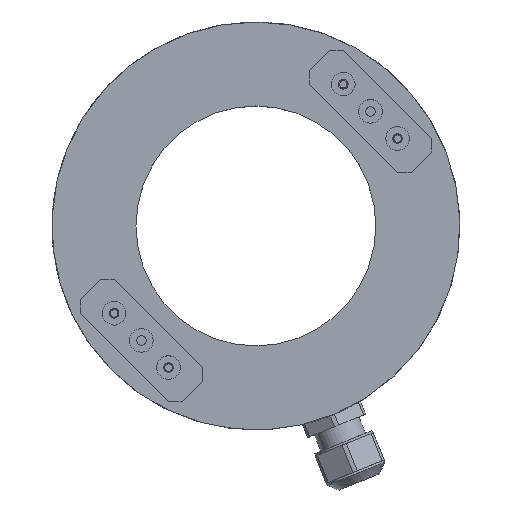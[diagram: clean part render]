
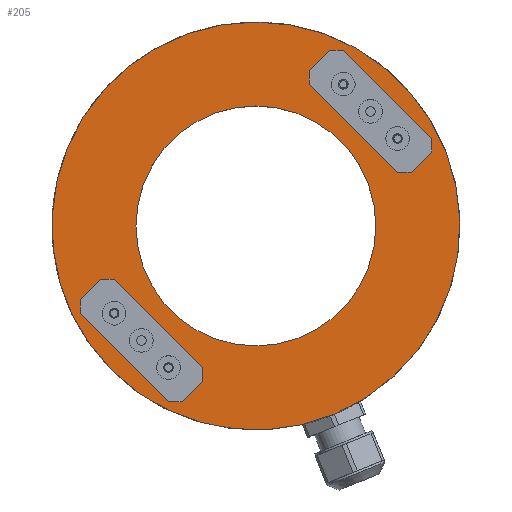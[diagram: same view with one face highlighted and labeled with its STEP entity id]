
A CAD part, top view. The second image highlights one B-rep face of the part: STEP entity #205.
In plain terms, the highlighted planar face has unit normal (0, 0, 1).
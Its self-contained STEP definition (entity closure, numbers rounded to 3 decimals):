
#205 = ADVANCED_FACE( '', ( #521, #522, #523, #524 ), #525, .F. );
#521 = FACE_BOUND( '', #1004, .T. );
#522 = FACE_OUTER_BOUND( '', #1005, .T. );
#523 = FACE_BOUND( '', #1006, .T. );
#524 = FACE_BOUND( '', #1007, .T. );
#525 = PLANE( '', #1008 );
#1004 = EDGE_LOOP( '', ( #1592 ) );
#1005 = EDGE_LOOP( '', ( #1593 ) );
#1006 = EDGE_LOOP( '', ( #1594, #1595, #1596, #1597, #1598, #1599, #1600, #1601 ) );
#1007 = EDGE_LOOP( '', ( #1602, #1603, #1604, #1605, #1606, #1607, #1608, #1609 ) );
#1008 = AXIS2_PLACEMENT_3D( '', #1610, #1611, #1612 );
#1592 = ORIENTED_EDGE( '', *, *, #2511, .F. );
#1593 = ORIENTED_EDGE( '', *, *, #2434, .T. );
#1594 = ORIENTED_EDGE( '', *, *, #2512, .F. );
#1595 = ORIENTED_EDGE( '', *, *, #2513, .T. );
#1596 = ORIENTED_EDGE( '', *, *, #2501, .F. );
#1597 = ORIENTED_EDGE( '', *, *, #2472, .T. );
#1598 = ORIENTED_EDGE( '', *, *, #2514, .F. );
#1599 = ORIENTED_EDGE( '', *, *, #2515, .T. );
#1600 = ORIENTED_EDGE( '', *, *, #2516, .F. );
#1601 = ORIENTED_EDGE( '', *, *, #2517, .T. );
#1602 = ORIENTED_EDGE( '', *, *, #2485, .F. );
#1603 = ORIENTED_EDGE( '', *, *, #2518, .F. );
#1604 = ORIENTED_EDGE( '', *, *, #2519, .F. );
#1605 = ORIENTED_EDGE( '', *, *, #2520, .F. );
#1606 = ORIENTED_EDGE( '', *, *, #2521, .F. );
#1607 = ORIENTED_EDGE( '', *, *, #2522, .T. );
#1608 = ORIENTED_EDGE( '', *, *, #2523, .F. );
#1609 = ORIENTED_EDGE( '', *, *, #2524, .T. );
#1610 = CARTESIAN_POINT( '', ( 0., -40., 9. ) );
#1611 = DIRECTION( '', ( 0., 0., -1. ) );
#1612 = DIRECTION( '', ( -1., 0., 0. ) );
#2434 = EDGE_CURVE( '', #2836, #2836, #2837, .T. );
#2472 = EDGE_CURVE( '', #2902, #2899, #2903, .T. );
#2485 = EDGE_CURVE( '', #2920, #2922, #2923, .T. );
#2501 = EDGE_CURVE( '', #2902, #2948, #2949, .T. );
#2511 = EDGE_CURVE( '', #2964, #2964, #2965, .T. );
#2512 = EDGE_CURVE( '', #2966, #2967, #2968, .T. );
#2513 = EDGE_CURVE( '', #2966, #2948, #2969, .T. );
#2514 = EDGE_CURVE( '', #2970, #2899, #2971, .T. );
#2515 = EDGE_CURVE( '', #2970, #2972, #2973, .T. );
#2516 = EDGE_CURVE( '', #2974, #2972, #2975, .T. );
#2517 = EDGE_CURVE( '', #2974, #2967, #2976, .T. );
#2518 = EDGE_CURVE( '', #2977, #2920, #2978, .T. );
#2519 = EDGE_CURVE( '', #2979, #2977, #2980, .T. );
#2520 = EDGE_CURVE( '', #2981, #2979, #2982, .T. );
#2521 = EDGE_CURVE( '', #2983, #2981, #2984, .T. );
#2522 = EDGE_CURVE( '', #2983, #2985, #2986, .T. );
#2523 = EDGE_CURVE( '', #2987, #2985, #2988, .T. );
#2524 = EDGE_CURVE( '', #2987, #2922, #2989, .T. );
#2836 = VERTEX_POINT( '', #3412 );
#2837 = CIRCLE( '', #3413, 42.5 );
#2899 = VERTEX_POINT( '', #3509 );
#2902 = VERTEX_POINT( '', #3513 );
#2903 = LINE( '', #3514, #3515 );
#2920 = VERTEX_POINT( '', #3537 );
#2922 = VERTEX_POINT( '', #3540 );
#2923 = LINE( '', #3541, #3542 );
#2948 = VERTEX_POINT( '', #3573 );
#2949 = LINE( '', #3574, #3575 );
#2964 = VERTEX_POINT( '', #3592 );
#2965 = CIRCLE( '', #3593, 25. );
#2966 = VERTEX_POINT( '', #3594 );
#2967 = VERTEX_POINT( '', #3595 );
#2968 = LINE( '', #3596, #3597 );
#2969 = LINE( '', #3598, #3599 );
#2970 = VERTEX_POINT( '', #3600 );
#2971 = LINE( '', #3601, #3602 );
#2972 = VERTEX_POINT( '', #3603 );
#2973 = LINE( '', #3604, #3605 );
#2974 = VERTEX_POINT( '', #3606 );
#2975 = LINE( '', #3607, #3608 );
#2976 = LINE( '', #3609, #3610 );
#2977 = VERTEX_POINT( '', #3611 );
#2978 = LINE( '', #3612, #3613 );
#2979 = VERTEX_POINT( '', #3614 );
#2980 = LINE( '', #3615, #3616 );
#2981 = VERTEX_POINT( '', #3617 );
#2982 = LINE( '', #3618, #3619 );
#2983 = VERTEX_POINT( '', #3620 );
#2984 = LINE( '', #3621, #3622 );
#2985 = VERTEX_POINT( '', #3623 );
#2986 = LINE( '', #3624, #3625 );
#2987 = VERTEX_POINT( '', #3626 );
#2988 = LINE( '', #3627, #3628 );
#2989 = LINE( '', #3629, #3630 );
#3412 = CARTESIAN_POINT( '', ( 0., 42.5, 9. ) );
#3413 = AXIS2_PLACEMENT_3D( '', #4115, #4116, #4117 );
#3509 = CARTESIAN_POINT( '', ( -11.137, -32.35, 9. ) );
#3513 = CARTESIAN_POINT( '', ( -11.137, -29.522, 9. ) );
#3514 = CARTESIAN_POINT( '', ( -11.137, -29.522, 9. ) );
#3515 = VECTOR( '', #4166, 1000. );
#3537 = CARTESIAN_POINT( '', ( 11.137, 29.522, 9. ) );
#3540 = CARTESIAN_POINT( '', ( 29.522, 11.137, 9. ) );
#3541 = CARTESIAN_POINT( '', ( 9.723, 30.936, 9. ) );
#3542 = VECTOR( '', #4182, 1000. );
#3573 = CARTESIAN_POINT( '', ( -29.522, -11.137, 9. ) );
#3574 = CARTESIAN_POINT( '', ( -9.723, -30.936, 9. ) );
#3575 = VECTOR( '', #4204, 1000. );
#3592 = CARTESIAN_POINT( '', ( 0., 25., 9. ) );
#3593 = AXIS2_PLACEMENT_3D( '', #4219, #4220, #4221 );
#3594 = CARTESIAN_POINT( '', ( -32.35, -11.137, 9. ) );
#3595 = CARTESIAN_POINT( '', ( -36.593, -15.379, 9. ) );
#3596 = CARTESIAN_POINT( '', ( -30.936, -9.723, 9. ) );
#3597 = VECTOR( '', #4222, 1000. );
#3598 = CARTESIAN_POINT( '', ( -32.35, -11.137, 9. ) );
#3599 = VECTOR( '', #4223, 1000. );
#3600 = CARTESIAN_POINT( '', ( -15.38, -36.593, 9. ) );
#3601 = CARTESIAN_POINT( '', ( -16.794, -38.007, 9. ) );
#3602 = VECTOR( '', #4224, 1000. );
#3603 = CARTESIAN_POINT( '', ( -18.208, -36.593, 9. ) );
#3604 = CARTESIAN_POINT( '', ( -15.38, -36.593, 9. ) );
#3605 = VECTOR( '', #4225, 1000. );
#3606 = CARTESIAN_POINT( '', ( -36.593, -18.208, 9. ) );
#3607 = CARTESIAN_POINT( '', ( -38.007, -16.794, 9. ) );
#3608 = VECTOR( '', #4226, 1000. );
#3609 = CARTESIAN_POINT( '', ( -36.593, -18.208, 9. ) );
#3610 = VECTOR( '', #4227, 1000. );
#3611 = CARTESIAN_POINT( '', ( 11.137, 32.35, 9. ) );
#3612 = CARTESIAN_POINT( '', ( 11.137, 29.522, 9. ) );
#3613 = VECTOR( '', #4228, 1000. );
#3614 = CARTESIAN_POINT( '', ( 15.379, 36.593, 9. ) );
#3615 = CARTESIAN_POINT( '', ( 11.137, 32.35, 9. ) );
#3616 = VECTOR( '', #4229, 1000. );
#3617 = CARTESIAN_POINT( '', ( 18.208, 36.593, 9. ) );
#3618 = CARTESIAN_POINT( '', ( 15.379, 36.593, 9. ) );
#3619 = VECTOR( '', #4230, 1000. );
#3620 = CARTESIAN_POINT( '', ( 36.593, 18.208, 9. ) );
#3621 = CARTESIAN_POINT( '', ( 38.007, 16.794, 9. ) );
#3622 = VECTOR( '', #4231, 1000. );
#3623 = CARTESIAN_POINT( '', ( 36.593, 15.379, 9. ) );
#3624 = CARTESIAN_POINT( '', ( 36.593, 18.208, 9. ) );
#3625 = VECTOR( '', #4232, 1000. );
#3626 = CARTESIAN_POINT( '', ( 32.35, 11.137, 9. ) );
#3627 = CARTESIAN_POINT( '', ( 30.936, 9.723, 9. ) );
#3628 = VECTOR( '', #4233, 1000. );
#3629 = CARTESIAN_POINT( '', ( 32.35, 11.137, 9. ) );
#3630 = VECTOR( '', #4234, 1000. );
#4115 = CARTESIAN_POINT( '', ( 0., 0., 9. ) );
#4116 = DIRECTION( '', ( 0., 0., 1. ) );
#4117 = DIRECTION( '', ( 0., 1., 0. ) );
#4166 = DIRECTION( '', ( 0., -1., 0. ) );
#4182 = DIRECTION( '', ( 0.707, -0.707, 0. ) );
#4204 = DIRECTION( '', ( -0.707, 0.707, 0. ) );
#4219 = CARTESIAN_POINT( '', ( 0., 0., 9. ) );
#4220 = DIRECTION( '', ( 0., 0., 1. ) );
#4221 = DIRECTION( '', ( 0., 1., 0. ) );
#4222 = DIRECTION( '', ( -0.707, -0.707, 0. ) );
#4223 = DIRECTION( '', ( 1., 0., 0. ) );
#4224 = DIRECTION( '', ( 0.707, 0.707, 0. ) );
#4225 = DIRECTION( '', ( -1., 0., 0. ) );
#4226 = DIRECTION( '', ( 0.707, -0.707, 0. ) );
#4227 = DIRECTION( '', ( 0., 1., 0. ) );
#4228 = DIRECTION( '', ( 0., -1., 0. ) );
#4229 = DIRECTION( '', ( -0.707, -0.707, 0. ) );
#4230 = DIRECTION( '', ( -1., 0., 0. ) );
#4231 = DIRECTION( '', ( -0.707, 0.707, 0. ) );
#4232 = DIRECTION( '', ( 0., -1., 0. ) );
#4233 = DIRECTION( '', ( 0.707, 0.707, 0. ) );
#4234 = DIRECTION( '', ( -1., 0., 0. ) );
